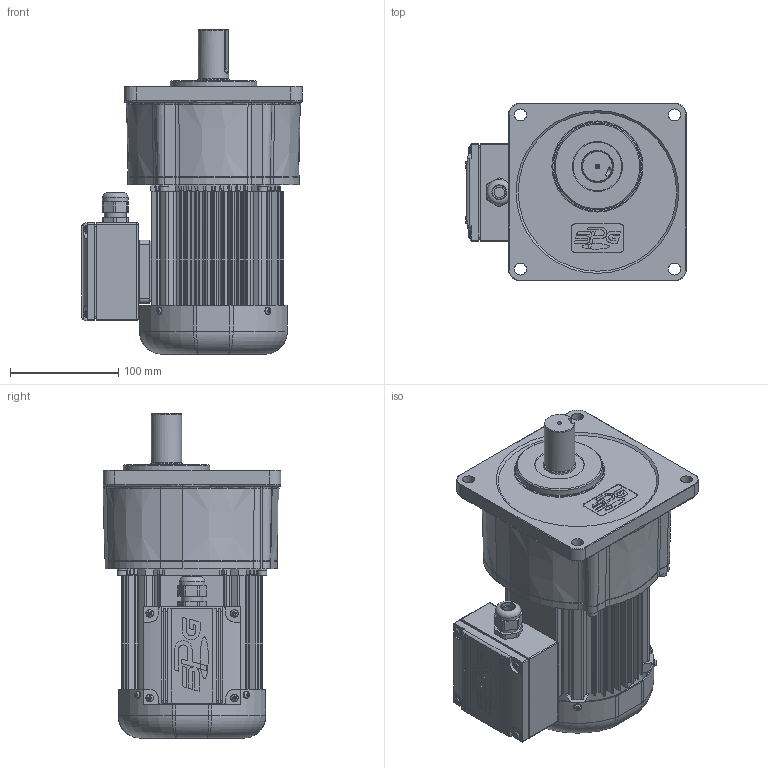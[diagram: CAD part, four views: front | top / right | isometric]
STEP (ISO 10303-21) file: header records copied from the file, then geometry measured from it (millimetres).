
FILE_DESCRIPTION(/* description */ (''),/* implementation_level */ '2;1');
FILE_NAME(/* name */ 'Z:\동력 3D 파일\PAK28_0.2kW_3D.stp',/* time_stamp */ '2021-11-09T08:34:20+09:00',/* author */ ('jaebok'),/* organization */ (''),/* preprocessor_version */ 'ST-DEVELOPER v18.1',/* originating_system */ 'Autodesk Inventor 2022',/* authorisation */ '');
FILE_SCHEMA (('AUTOMOTIVE_DESIGN { 1 0 10303 214 3 1 1 }'));
Products named in the file (1): 부품5
Bounding box: 203.5 x 164 x 299 mm (x, y, z)
Volume: 1620047.9 mm3; surface area: 498181.3 mm2
Topology: 2 solids, 41 shells, 2167 faces, 5569 edges, 3513 vertices
Faces by surface type: plane 984, cylinder 634, bspline 191, cone 188, torus 136, sphere 34
Full cylindrical faces by diameter (mm): 2 x1, 3.242 x9, 3.25 x1, 3.6 x4, 4 x21, 4.2 x4, 4.917 x4, 5 x18, 5.386 x4, 5.5 x4, 6 x8, 7 x12, 8 x5, 8.5 x4, 10 x1, 12.5 x1, 15 x1, 19 x1, 20 x2, 21 x1, 23.6 x1, 25 x1, 27 x2, 28 x2, 29.6 x1, 30 x1, 32 x1, 33 x1, 34 x2, 35 x1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
Entity records: 76278 total; most frequent: CARTESIAN_POINT 21560, ORIENTED_EDGE 11050, DIRECTION 11034, EDGE_CURVE 5525, AXIS2_PLACEMENT_3D 4312, VERTEX_POINT 3513, LINE 2410, VECTOR 2410
